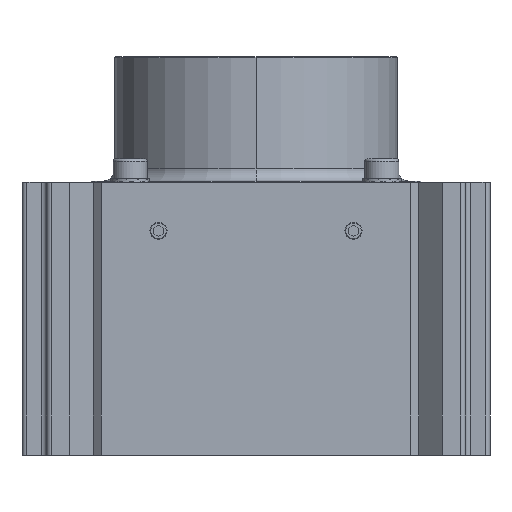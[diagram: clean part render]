
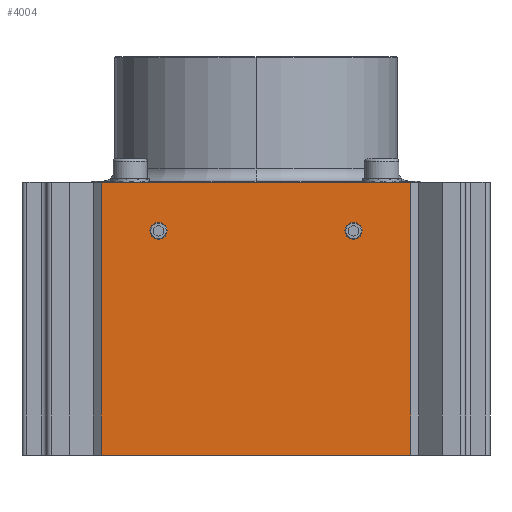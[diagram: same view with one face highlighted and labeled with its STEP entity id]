
A CAD part, front view. The second image highlights one B-rep face of the part: STEP entity #4004.
In plain terms, the highlighted planar face has unit normal (0, -1, 0).
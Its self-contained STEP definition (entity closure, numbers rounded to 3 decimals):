
#163=DIRECTION('',(1.,0.,0.));
#164=VECTOR('',#163,63.5);
#165=CARTESIAN_POINT('',(-31.75,-48.,0.));
#166=LINE('',#165,#164);
#716=DIRECTION('',(1.,0.,0.));
#717=VECTOR('',#716,63.5);
#718=CARTESIAN_POINT('',(-31.75,-48.,56.));
#719=LINE('',#718,#717);
#1320=DIRECTION('',(0.,0.,1.));
#1321=VECTOR('',#1320,56.);
#1322=CARTESIAN_POINT('',(31.75,-48.,0.));
#1323=LINE('',#1322,#1321);
#1324=DIRECTION('',(0.,0.,1.));
#1325=VECTOR('',#1324,56.);
#1326=CARTESIAN_POINT('',(-31.75,-48.,0.));
#1327=LINE('',#1326,#1325);
#1328=CARTESIAN_POINT('',(20.,-48.,46.));
#1329=DIRECTION('',(0.,1.,0.));
#1330=DIRECTION('',(1.,0.,0.));
#1331=AXIS2_PLACEMENT_3D('',#1328,#1329,#1330);
#1333=CARTESIAN_POINT('',(20.,-48.,46.));
#1334=DIRECTION('',(0.,1.,0.));
#1335=DIRECTION('',(-1.,0.,0.));
#1336=AXIS2_PLACEMENT_3D('',#1333,#1334,#1335);
#1338=CARTESIAN_POINT('',(-20.,-48.,46.));
#1339=DIRECTION('',(0.,1.,0.));
#1340=DIRECTION('',(1.,0.,0.));
#1341=AXIS2_PLACEMENT_3D('',#1338,#1339,#1340);
#1343=CARTESIAN_POINT('',(-20.,-48.,46.));
#1344=DIRECTION('',(0.,1.,0.));
#1345=DIRECTION('',(-1.,0.,0.));
#1346=AXIS2_PLACEMENT_3D('',#1343,#1344,#1345);
#2166=CARTESIAN_POINT('',(21.75,-48.,46.));
#2168=VERTEX_POINT('',#2166);
#2170=CARTESIAN_POINT('',(18.25,-48.,46.));
#2172=VERTEX_POINT('',#2170);
#2174=CARTESIAN_POINT('',(-18.25,-48.,46.));
#2176=VERTEX_POINT('',#2174);
#2178=CARTESIAN_POINT('',(-21.75,-48.,46.));
#2180=VERTEX_POINT('',#2178);
#2260=CARTESIAN_POINT('',(-31.75,-48.,0.));
#2261=VERTEX_POINT('',#2260);
#2262=CARTESIAN_POINT('',(31.75,-48.,0.));
#2263=VERTEX_POINT('',#2262);
#2396=CARTESIAN_POINT('',(-31.75,-48.,56.));
#2397=VERTEX_POINT('',#2396);
#2398=CARTESIAN_POINT('',(31.75,-48.,56.));
#2399=VERTEX_POINT('',#2398);
#3980=CARTESIAN_POINT('',(-31.75,-48.,0.));
#3981=DIRECTION('',(0.,-1.,0.));
#3982=DIRECTION('',(1.,0.,0.));
#3983=AXIS2_PLACEMENT_3D('',#3980,#3981,#3982);
#3984=PLANE('',#3983);
#3985=ORIENTED_EDGE('',*,*,#2632,.F.);
#3987=ORIENTED_EDGE('',*,*,#3986,.T.);
#3988=ORIENTED_EDGE('',*,*,#2959,.T.);
#3989=ORIENTED_EDGE('',*,*,#3973,.F.);
#3990=EDGE_LOOP('',(#3985,#3987,#3988,#3989));
#3991=FACE_OUTER_BOUND('',#3990,.F.);
#3993=ORIENTED_EDGE('',*,*,#3992,.F.);
#3995=ORIENTED_EDGE('',*,*,#3994,.F.);
#3996=EDGE_LOOP('',(#3993,#3995));
#3997=FACE_BOUND('',#3996,.F.);
#3999=ORIENTED_EDGE('',*,*,#3998,.F.);
#4001=ORIENTED_EDGE('',*,*,#4000,.F.);
#4002=EDGE_LOOP('',(#3999,#4001));
#4003=FACE_BOUND('',#4002,.F.);
#4004=ADVANCED_FACE('',(#3991,#3997,#4003),#3984,.T.);
#1332=CIRCLE('',#1331,1.75);
#1337=CIRCLE('',#1336,1.75);
#1342=CIRCLE('',#1341,1.75);
#1347=CIRCLE('',#1346,1.75);
#2632=EDGE_CURVE('',#2261,#2263,#166,.T.);
#2959=EDGE_CURVE('',#2397,#2399,#719,.T.);
#3973=EDGE_CURVE('',#2263,#2399,#1323,.T.);
#3986=EDGE_CURVE('',#2261,#2397,#1327,.T.);
#3992=EDGE_CURVE('',#2168,#2172,#1332,.T.);
#3994=EDGE_CURVE('',#2172,#2168,#1337,.T.);
#3998=EDGE_CURVE('',#2176,#2180,#1342,.T.);
#4000=EDGE_CURVE('',#2180,#2176,#1347,.T.);
